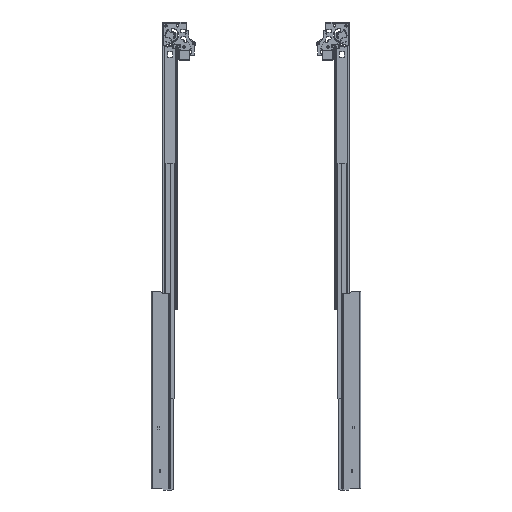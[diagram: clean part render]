
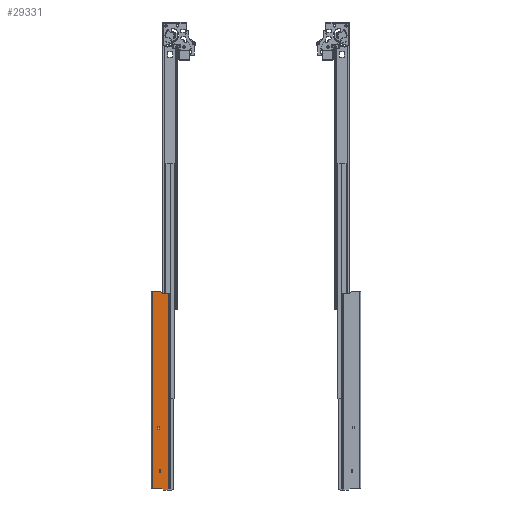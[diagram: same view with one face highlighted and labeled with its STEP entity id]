
A CAD part, front view. The second image highlights one B-rep face of the part: STEP entity #29331.
In plain terms, the highlighted planar face has unit normal (0, -1, 0).
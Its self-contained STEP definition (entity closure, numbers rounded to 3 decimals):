
#807=FACE_BOUND('',#5992,.T.);
#808=FACE_BOUND('',#5993,.T.);
#1943=CIRCLE('',#31253,2.);
#1944=CIRCLE('',#31254,2.);
#4113=FACE_OUTER_BOUND('',#5991,.T.);
#5991=EDGE_LOOP('',(#18739,#18740,#18741,#18742,#18743,#18744,#18745,#18746,
#18747,#18748));
#5992=EDGE_LOOP('',(#18749,#18750,#18751,#18752));
#5993=EDGE_LOOP('',(#18753,#18754,#18755,#18756));
#8181=LINE('',#45300,#10101);
#8185=LINE('',#45308,#10105);
#8188=LINE('',#45314,#10108);
#8191=LINE('',#45319,#10111);
#8193=LINE('',#45325,#10113);
#8197=LINE('',#45333,#10117);
#8200=LINE('',#45339,#10120);
#8203=LINE('',#45344,#10123);
#8205=LINE('',#45350,#10125);
#8220=LINE('',#45398,#10140);
#8228=LINE('',#45418,#10148);
#8229=LINE('',#45422,#10149);
#8230=LINE('',#45424,#10150);
#8231=LINE('',#45426,#10151);
#8232=LINE('',#45430,#10152);
#8233=LINE('',#45433,#10153);
#10101=VECTOR('',#35278,5.);
#10105=VECTOR('',#35284,3.);
#10108=VECTOR('',#35289,5.);
#10111=VECTOR('',#35294,3.);
#10113=VECTOR('',#35300,6.);
#10117=VECTOR('',#35306,3.5);
#10120=VECTOR('',#35311,6.);
#10123=VECTOR('',#35316,3.5);
#10125=VECTOR('',#35322,4.243);
#10140=VECTOR('',#35357,18.);
#10148=VECTOR('',#35377,377.);
#10149=VECTOR('',#35382,9.5);
#10150=VECTOR('',#35383,375.);
#10151=VECTOR('',#35384,9.672);
#10152=VECTOR('',#35387,5.414);
#10153=VECTOR('',#35390,14.172);
#12021=VERTEX_POINT('',#45298);
#12022=VERTEX_POINT('',#45299);
#12025=VERTEX_POINT('',#45307);
#12027=VERTEX_POINT('',#45313);
#12029=VERTEX_POINT('',#45323);
#12030=VERTEX_POINT('',#45324);
#12033=VERTEX_POINT('',#45332);
#12035=VERTEX_POINT('',#45338);
#12037=VERTEX_POINT('',#45348);
#12038=VERTEX_POINT('',#45349);
#12061=VERTEX_POINT('',#45397);
#12067=VERTEX_POINT('',#45417);
#12068=VERTEX_POINT('',#45421);
#12069=VERTEX_POINT('',#45423);
#12070=VERTEX_POINT('',#45425);
#12071=VERTEX_POINT('',#45427);
#12072=VERTEX_POINT('',#45429);
#12073=VERTEX_POINT('',#45431);
#14489=EDGE_CURVE('',#12021,#12022,#8181,.T.);
#14493=EDGE_CURVE('',#12022,#12025,#8185,.T.);
#14496=EDGE_CURVE('',#12025,#12027,#8188,.T.);
#14499=EDGE_CURVE('',#12027,#12021,#8191,.T.);
#14501=EDGE_CURVE('',#12029,#12030,#8193,.T.);
#14505=EDGE_CURVE('',#12030,#12033,#8197,.T.);
#14508=EDGE_CURVE('',#12033,#12035,#8200,.T.);
#14511=EDGE_CURVE('',#12035,#12029,#8203,.T.);
#14513=EDGE_CURVE('',#12037,#12038,#8205,.T.);
#14537=EDGE_CURVE('',#12061,#12037,#8220,.T.);
#14547=EDGE_CURVE('',#12067,#12061,#8228,.T.);
#14549=EDGE_CURVE('',#12068,#12038,#8229,.T.);
#14550=EDGE_CURVE('',#12069,#12068,#8230,.T.);
#14551=EDGE_CURVE('',#12069,#12070,#8231,.T.);
#14552=EDGE_CURVE('',#12071,#12070,#1943,.T.);
#14553=EDGE_CURVE('',#12071,#12072,#8232,.T.);
#14554=EDGE_CURVE('',#12073,#12072,#1944,.T.);
#14555=EDGE_CURVE('',#12067,#12073,#8233,.T.);
#18739=ORIENTED_EDGE('',*,*,#14537,.T.);
#18740=ORIENTED_EDGE('',*,*,#14513,.T.);
#18741=ORIENTED_EDGE('',*,*,#14549,.F.);
#18742=ORIENTED_EDGE('',*,*,#14550,.F.);
#18743=ORIENTED_EDGE('',*,*,#14551,.T.);
#18744=ORIENTED_EDGE('',*,*,#14552,.F.);
#18745=ORIENTED_EDGE('',*,*,#14553,.T.);
#18746=ORIENTED_EDGE('',*,*,#14554,.F.);
#18747=ORIENTED_EDGE('',*,*,#14555,.F.);
#18748=ORIENTED_EDGE('',*,*,#14547,.T.);
#18749=ORIENTED_EDGE('',*,*,#14489,.T.);
#18750=ORIENTED_EDGE('',*,*,#14493,.T.);
#18751=ORIENTED_EDGE('',*,*,#14496,.T.);
#18752=ORIENTED_EDGE('',*,*,#14499,.T.);
#18753=ORIENTED_EDGE('',*,*,#14501,.T.);
#18754=ORIENTED_EDGE('',*,*,#14505,.T.);
#18755=ORIENTED_EDGE('',*,*,#14508,.T.);
#18756=ORIENTED_EDGE('',*,*,#14511,.T.);
#27001=PLANE('',#31252);
#29331=ADVANCED_FACE('',(#4113,#807,#808),#27001,.T.);
#31252=AXIS2_PLACEMENT_3D('',#45420,#35380,#35381);
#31253=AXIS2_PLACEMENT_3D('',#45428,#35385,#35386);
#31254=AXIS2_PLACEMENT_3D('',#45432,#35388,#35389);
#35278=DIRECTION('',(0.,0.,1.));
#35284=DIRECTION('',(1.,0.,0.));
#35289=DIRECTION('',(0.,0.,-1.));
#35294=DIRECTION('',(-1.,0.,0.));
#35300=DIRECTION('',(0.,0.,1.));
#35306=DIRECTION('',(1.,0.,0.));
#35311=DIRECTION('',(0.,0.,-1.));
#35316=DIRECTION('',(-1.,0.,0.));
#35322=DIRECTION('',(0.707,0.,-0.707));
#35357=DIRECTION('',(1.,0.,0.));
#35377=DIRECTION('',(0.,0.,-1.));
#35380=DIRECTION('center_axis',(0.,-1.,0.));
#35381=DIRECTION('ref_axis',(-1.,0.,0.));
#35382=DIRECTION('',(-1.,0.,0.));
#35383=DIRECTION('',(0.,0.,-1.));
#35384=DIRECTION('',(-1.,0.,0.));
#35385=DIRECTION('center_axis',(0.,-1.,0.));
#35386=DIRECTION('ref_axis',(-0.383,0.,-0.924));
#35387=DIRECTION('',(-0.707,0.,0.707));
#35388=DIRECTION('center_axis',(0.,1.,0.));
#35389=DIRECTION('ref_axis',(0.383,0.,0.924));
#35390=DIRECTION('',(1.,0.,0.));
#45298=CARTESIAN_POINT('',(12.,0.,-264.));
#45299=CARTESIAN_POINT('',(12.,0.,-259.));
#45300=CARTESIAN_POINT('',(12.,0.,-129.5));
#45307=CARTESIAN_POINT('',(15.,0.,-259.));
#45308=CARTESIAN_POINT('',(23.75,0.,-259.));
#45313=CARTESIAN_POINT('',(15.,0.,-264.));
#45314=CARTESIAN_POINT('',(15.,0.,-132.));
#45319=CARTESIAN_POINT('',(22.25,0.,-264.));
#45323=CARTESIAN_POINT('',(15.,0.,-347.));
#45324=CARTESIAN_POINT('',(15.,0.,-341.));
#45325=CARTESIAN_POINT('',(15.,0.,-170.5));
#45332=CARTESIAN_POINT('',(18.5,0.,-341.));
#45333=CARTESIAN_POINT('',(25.5,0.,-341.));
#45338=CARTESIAN_POINT('',(18.5,0.,-347.));
#45339=CARTESIAN_POINT('',(18.5,0.,-173.5));
#45344=CARTESIAN_POINT('',(23.75,0.,-347.));
#45348=CARTESIAN_POINT('',(20.,0.,-377.));
#45349=CARTESIAN_POINT('',(23.,0.,-380.));
#45350=CARTESIAN_POINT('',(-71.125,0.,-285.875));
#45397=CARTESIAN_POINT('',(2.,0.,-377.));
#45398=CARTESIAN_POINT('',(16.25,0.,-377.));
#45417=CARTESIAN_POINT('',(2.,0.,0.));
#45418=CARTESIAN_POINT('',(2.,0.,0.));
#45420=CARTESIAN_POINT('Origin',(32.5,0.,0.));
#45421=CARTESIAN_POINT('',(32.5,0.,-380.));
#45422=CARTESIAN_POINT('',(2.,0.,-380.));
#45423=CARTESIAN_POINT('',(32.5,0.,-5.));
#45424=CARTESIAN_POINT('',(32.5,0.,0.));
#45425=CARTESIAN_POINT('',(22.828,0.,-5.));
#45426=CARTESIAN_POINT('',(35.75,0.,-5.));
#45427=CARTESIAN_POINT('',(21.414,0.,-4.414));
#45428=CARTESIAN_POINT('Origin',(22.828,0.,
-3.));
#45429=CARTESIAN_POINT('',(17.586,0.,-0.586));
#45430=CARTESIAN_POINT('',(23.375,0.,-6.375));
#45431=CARTESIAN_POINT('',(16.172,0.,0.));
#45432=CARTESIAN_POINT('Origin',(16.172,0.,
-2.));
#45433=CARTESIAN_POINT('',(2.,0.,0.));
